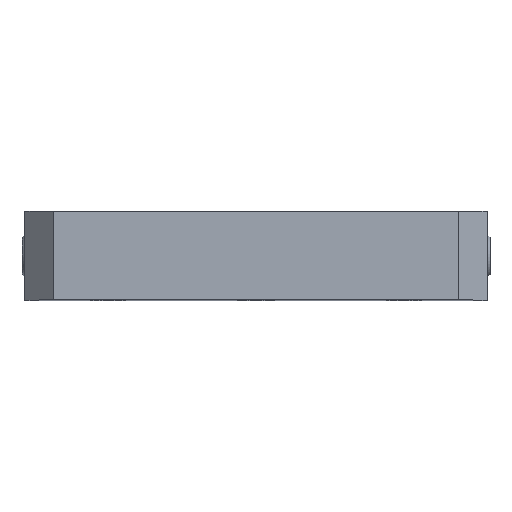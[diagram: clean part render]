
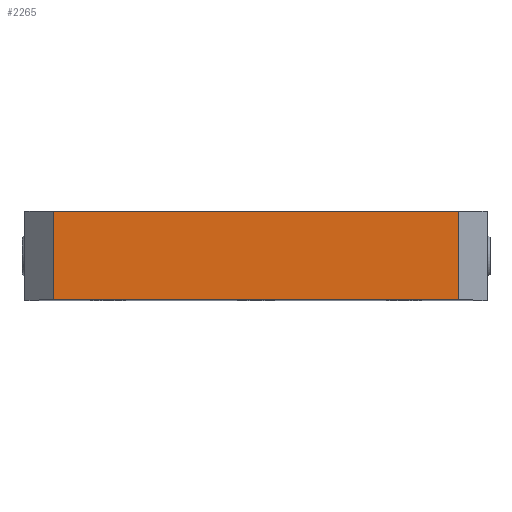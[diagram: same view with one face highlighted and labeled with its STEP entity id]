
A CAD part, top view. The second image highlights one B-rep face of the part: STEP entity #2265.
In plain terms, the highlighted planar face has unit normal (0, 0, 1).
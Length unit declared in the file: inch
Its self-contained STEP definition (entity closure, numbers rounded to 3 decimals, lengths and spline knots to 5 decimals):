
#138 = ORIENTED_EDGE ( 'NONE', *, *, #2999, .T. ) ;
#594 = CARTESIAN_POINT ( 'NONE',  ( -2.69587, 1.1811, 3.46457 ) ) ;
#1145 = ORIENTED_EDGE ( 'NONE', *, *, #7240, .T. ) ;
#2265 = ADVANCED_FACE ( 'NONE', ( #2741 ), #3462, .F. ) ;
#2741 = FACE_OUTER_BOUND ( 'NONE', #6084, .T. ) ;
#2774 = EDGE_CURVE ( 'NONE', #3987, #6395, #4838, .T. ) ;
#2784 = CARTESIAN_POINT ( 'NONE',  ( -3.07087, 1.1811, 3.46457 ) ) ;
#2990 = DIRECTION ( 'NONE',  ( 1., 0., 0. ) ) ;
#2999 = EDGE_CURVE ( 'NONE', #8341, #3987, #4691, .T. ) ;
#3462 = PLANE ( 'NONE',  #7577 ) ;
#3526 = VECTOR ( 'NONE', #6540, 39.37008 ) ;
#3655 = CARTESIAN_POINT ( 'NONE',  ( 2.69587, 0., 3.46457 ) ) ;
#3987 = VERTEX_POINT ( 'NONE', #6924 ) ;
#4100 = CARTESIAN_POINT ( 'NONE',  ( -3.07087, 0., 3.46457 ) ) ;
#4545 = CARTESIAN_POINT ( 'NONE',  ( -2.69587, 1.1811, 3.46457 ) ) ;
#4691 = LINE ( 'NONE', #4545, #8170 ) ;
#4838 = LINE ( 'NONE', #4100, #7436 ) ;
#4975 = ORIENTED_EDGE ( 'NONE', *, *, #2774, .T. ) ;
#5581 = DIRECTION ( 'NONE',  ( 0., 0., -1. ) ) ;
#6051 = ORIENTED_EDGE ( 'NONE', *, *, #7350, .F. ) ;
#6084 = EDGE_LOOP ( 'NONE', ( #6051, #138, #4975, #1145 ) ) ;
#6395 = VERTEX_POINT ( 'NONE', #3655 ) ;
#6540 = DIRECTION ( 'NONE',  ( 0., 1., 0. ) ) ;
#6587 = LINE ( 'NONE', #8591, #3526 ) ;
#6924 = CARTESIAN_POINT ( 'NONE',  ( -2.69587, 0., 3.46457 ) ) ;
#7007 = DIRECTION ( 'NONE',  ( 1., 0., 0. ) ) ;
#7229 = CARTESIAN_POINT ( 'NONE',  ( -3.07087, 1.1811, 3.46457 ) ) ;
#7240 = EDGE_CURVE ( 'NONE', #6395, #7989, #6587, .T. ) ;
#7350 = EDGE_CURVE ( 'NONE', #8341, #7989, #8506, .T. ) ;
#7436 = VECTOR ( 'NONE', #7007, 39.37008 ) ;
#7502 = DIRECTION ( 'NONE',  ( 0., -1., 0. ) ) ;
#7577 = AXIS2_PLACEMENT_3D ( 'NONE', #2784, #5581, #8386 ) ;
#7794 = VECTOR ( 'NONE', #2990, 39.37008 ) ;
#7989 = VERTEX_POINT ( 'NONE', #8498 ) ;
#8170 = VECTOR ( 'NONE', #7502, 39.37008 ) ;
#8341 = VERTEX_POINT ( 'NONE', #594 ) ;
#8386 = DIRECTION ( 'NONE',  ( -1., 0., 0. ) ) ;
#8498 = CARTESIAN_POINT ( 'NONE',  ( 2.69587, 1.1811, 3.46457 ) ) ;
#8506 = LINE ( 'NONE', #7229, #7794 ) ;
#8591 = CARTESIAN_POINT ( 'NONE',  ( 2.69587, 1.1811, 3.46457 ) ) ;
